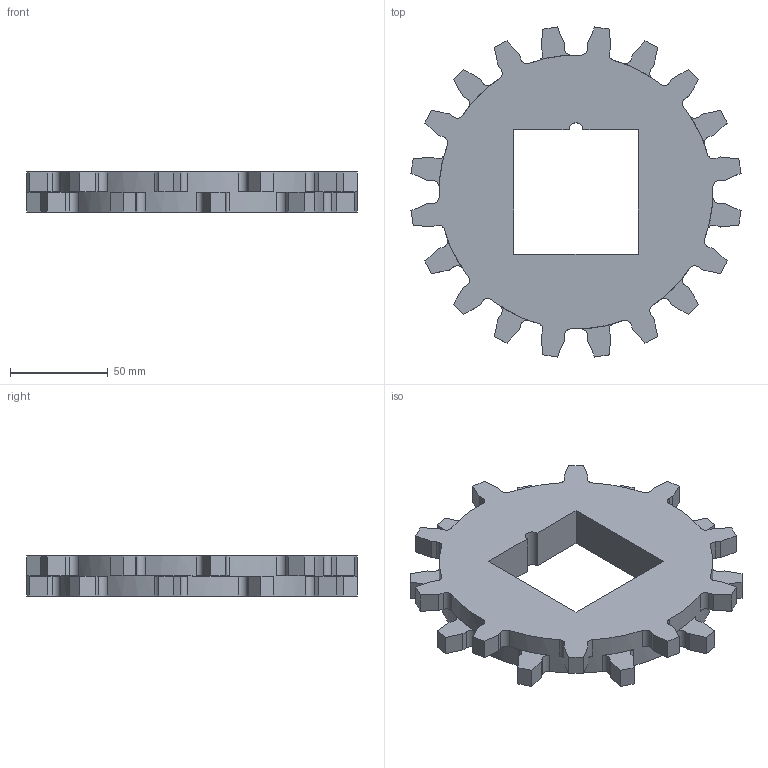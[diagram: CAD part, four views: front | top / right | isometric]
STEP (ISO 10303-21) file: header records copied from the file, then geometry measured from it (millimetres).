
FILE_DESCRIPTION((''),'2;1');
FILE_NAME('S2600_SPROCKET_65_SQ','2008-12-12T',('jmumphre'),(''),'PRO/ENGINEER BY PARAMETRIC TECHNOLOGY CORPORATION, 2008150','PRO/ENGINEER BY PARAMETRIC TECHNOLOGY CORPORATION, 2008150','');
FILE_SCHEMA(('CONFIG_CONTROL_DESIGN'));
Length unit declared in the file: inch
Products named in the file (1): S2600_SPROCKET_65_SQ
Bounding box: 168.73 x 168.73 x 20.45 mm (x, y, z)
Volume: 264252.9 mm3; surface area: 48348.9 mm2
Topology: 1 solids, 1 shells, 170 faces, 504 edges, 336 vertices
Faces by surface type: plane 127, cylinder 43
Entity records: 5738 total; most frequent: CARTESIAN_POINT 1010, ORIENTED_EDGE 1008, DIRECTION 970, EDGE_CURVE 504, VECTOR 378, LINE 378, VERTEX_POINT 336, AXIS2_PLACEMENT_3D 296
